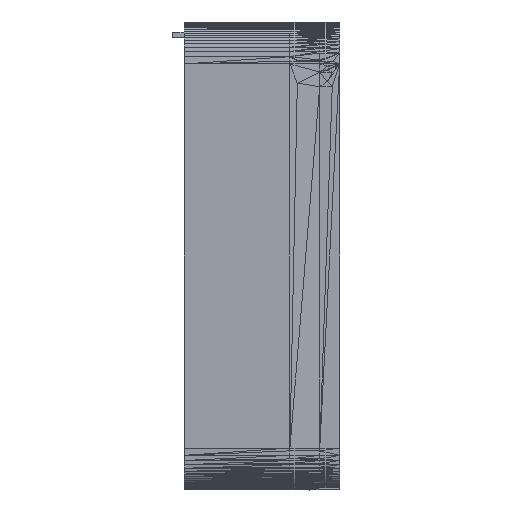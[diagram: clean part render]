
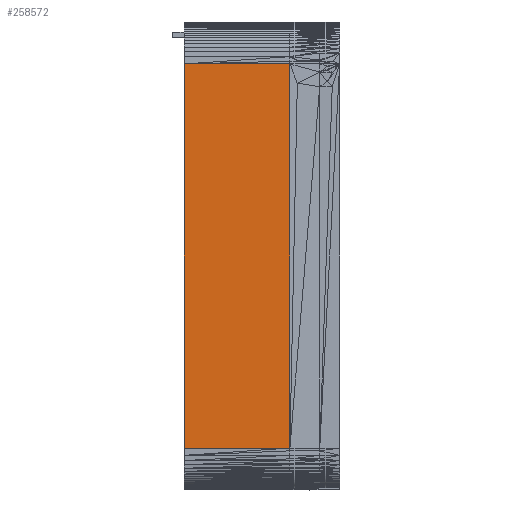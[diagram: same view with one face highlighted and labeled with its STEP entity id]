
A CAD part, left-side view. The second image highlights one B-rep face of the part: STEP entity #258572.
In plain terms, the highlighted planar face has unit normal (-1, 0, 0).
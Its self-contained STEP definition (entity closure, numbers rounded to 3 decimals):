
#53218 = PLANE('',#53219);
#53219 = AXIS2_PLACEMENT_3D('',#53220,#53221,#53222);
#53220 = CARTESIAN_POINT('',(33.536,57.2,
    53.216));
#53221 = DIRECTION('',(0.,1.,0.));
#53222 = DIRECTION('',(0.,-0.,1.));
#180512 = VERTEX_POINT('',#180513);
#180513 = CARTESIAN_POINT('',(-35.586,57.2,
    -29.377));
#180527 = PLANE('',#180528);
#180528 = AXIS2_PLACEMENT_3D('',#180529,#180530,#180531);
#180529 = CARTESIAN_POINT('',(-35.575,46.952,
    -29.754));
#180530 = DIRECTION('',(-1.,-0.,-0.029));
#180531 = DIRECTION('',(0.029,0.,-1.));
#180539 = EDGE_CURVE('',#180540,#180512,#180542,.T.);
#180540 = VERTEX_POINT('',#180541);
#180541 = CARTESIAN_POINT('',(-35.586,57.2,
    47.777));
#180542 = SURFACE_CURVE('',#180543,(#180547,#180554),.PCURVE_S1.);
#180543 = LINE('',#180544,#180545);
#180544 = CARTESIAN_POINT('',(-35.586,57.2,
    47.777));
#180545 = VECTOR('',#180546,1.);
#180546 = DIRECTION('',(0.,0.,-1.));
#180547 = PCURVE('',#53218,#180548);
#180548 = DEFINITIONAL_REPRESENTATION('',(#180549),#180553);
#180549 = LINE('',#180550,#180551);
#180550 = CARTESIAN_POINT('',(-5.439,-69.122));
#180551 = VECTOR('',#180552,1.);
#180552 = DIRECTION('',(-1.,0.));
#180553 = ( GEOMETRIC_REPRESENTATION_CONTEXT(2) 
PARAMETRIC_REPRESENTATION_CONTEXT() REPRESENTATION_CONTEXT('2D SPACE',''
  ) );
#180554 = PCURVE('',#180555,#180560);
#180555 = PLANE('',#180556);
#180556 = AXIS2_PLACEMENT_3D('',#180557,#180558,#180559);
#180557 = CARTESIAN_POINT('',(-35.586,42.015,
    4.615));
#180558 = DIRECTION('',(-1.,-0.,-0.));
#180559 = DIRECTION('',(0.,0.,-1.));
#180560 = DEFINITIONAL_REPRESENTATION('',(#180561),#180565);
#180561 = LINE('',#180562,#180563);
#180562 = CARTESIAN_POINT('',(-43.162,-15.185));
#180563 = VECTOR('',#180564,1.);
#180564 = DIRECTION('',(1.,0.));
#180565 = ( GEOMETRIC_REPRESENTATION_CONTEXT(2) 
PARAMETRIC_REPRESENTATION_CONTEXT() REPRESENTATION_CONTEXT('2D SPACE',''
  ) );
#241989 = VERTEX_POINT('',#241990);
#241990 = CARTESIAN_POINT('',(-35.586,36.,-29.377));
#242004 = PLANE('',#242005);
#242005 = AXIS2_PLACEMENT_3D('',#242006,#242007,#242008);
#242006 = CARTESIAN_POINT('',(-35.213,35.624,
    9.328));
#242007 = DIRECTION('',(-0.71,-0.704,-0.));
#242008 = DIRECTION('',(0.704,-0.71,0.));
#247353 = VERTEX_POINT('',#247354);
#247354 = CARTESIAN_POINT('',(-35.586,36.,47.777));
#247368 = PLANE('',#247369);
#247369 = AXIS2_PLACEMENT_3D('',#247370,#247371,#247372);
#247370 = CARTESIAN_POINT('',(-35.583,46.463,
    47.918));
#247371 = DIRECTION('',(-1.,-0.,0.02));
#247372 = DIRECTION('',(-0.02,0.,-1.));
#248618 = EDGE_CURVE('',#247353,#241989,#248619,.T.);
#248619 = SURFACE_CURVE('',#248620,(#248624,#248631),.PCURVE_S1.);
#248620 = LINE('',#248621,#248622);
#248621 = CARTESIAN_POINT('',(-35.586,36.,47.777));
#248622 = VECTOR('',#248623,1.);
#248623 = DIRECTION('',(0.,0.,-1.));
#248624 = PCURVE('',#242004,#248625);
#248625 = DEFINITIONAL_REPRESENTATION('',(#248626),#248630);
#248626 = LINE('',#248627,#248628);
#248627 = CARTESIAN_POINT('',(-0.53,38.449));
#248628 = VECTOR('',#248629,1.);
#248629 = DIRECTION('',(0.,-1.));
#248630 = ( GEOMETRIC_REPRESENTATION_CONTEXT(2) 
PARAMETRIC_REPRESENTATION_CONTEXT() REPRESENTATION_CONTEXT('2D SPACE',''
  ) );
#248631 = PCURVE('',#180555,#248632);
#248632 = DEFINITIONAL_REPRESENTATION('',(#248633),#248637);
#248633 = LINE('',#248634,#248635);
#248634 = CARTESIAN_POINT('',(-43.162,6.015));
#248635 = VECTOR('',#248636,1.);
#248636 = DIRECTION('',(1.,0.));
#248637 = ( GEOMETRIC_REPRESENTATION_CONTEXT(2) 
PARAMETRIC_REPRESENTATION_CONTEXT() REPRESENTATION_CONTEXT('2D SPACE',''
  ) );
#258550 = EDGE_CURVE('',#241989,#180512,#258551,.T.);
#258551 = SURFACE_CURVE('',#258552,(#258556,#258563),.PCURVE_S1.);
#258552 = LINE('',#258553,#258554);
#258553 = CARTESIAN_POINT('',(-35.586,36.,-29.377));
#258554 = VECTOR('',#258555,1.);
#258555 = DIRECTION('',(0.,1.,0.));
#258556 = PCURVE('',#180527,#258557);
#258557 = DEFINITIONAL_REPRESENTATION('',(#258558),#258562);
#258558 = LINE('',#258559,#258560);
#258559 = CARTESIAN_POINT('',(-0.377,10.952));
#258560 = VECTOR('',#258561,1.);
#258561 = DIRECTION('',(0.,-1.));
#258562 = ( GEOMETRIC_REPRESENTATION_CONTEXT(2) 
PARAMETRIC_REPRESENTATION_CONTEXT() REPRESENTATION_CONTEXT('2D SPACE',''
  ) );
#258563 = PCURVE('',#180555,#258564);
#258564 = DEFINITIONAL_REPRESENTATION('',(#258565),#258569);
#258565 = LINE('',#258566,#258567);
#258566 = CARTESIAN_POINT('',(33.992,6.015));
#258567 = VECTOR('',#258568,1.);
#258568 = DIRECTION('',(0.,-1.));
#258569 = ( GEOMETRIC_REPRESENTATION_CONTEXT(2) 
PARAMETRIC_REPRESENTATION_CONTEXT() REPRESENTATION_CONTEXT('2D SPACE',''
  ) );
#258572 = ADVANCED_FACE('',(#258573),#180555,.T.);
#258573 = FACE_BOUND('',#258574,.T.);
#258574 = EDGE_LOOP('',(#258575,#258576,#258596,#258597));
#258575 = ORIENTED_EDGE('',*,*,#248618,.F.);
#258576 = ORIENTED_EDGE('',*,*,#258577,.T.);
#258577 = EDGE_CURVE('',#247353,#180540,#258578,.T.);
#258578 = SURFACE_CURVE('',#258579,(#258583,#258590),.PCURVE_S1.);
#258579 = LINE('',#258580,#258581);
#258580 = CARTESIAN_POINT('',(-35.586,36.,47.777));
#258581 = VECTOR('',#258582,1.);
#258582 = DIRECTION('',(0.,1.,0.));
#258583 = PCURVE('',#180555,#258584);
#258584 = DEFINITIONAL_REPRESENTATION('',(#258585),#258589);
#258585 = LINE('',#258586,#258587);
#258586 = CARTESIAN_POINT('',(-43.162,6.015));
#258587 = VECTOR('',#258588,1.);
#258588 = DIRECTION('',(0.,-1.));
#258589 = ( GEOMETRIC_REPRESENTATION_CONTEXT(2) 
PARAMETRIC_REPRESENTATION_CONTEXT() REPRESENTATION_CONTEXT('2D SPACE',''
  ) );
#258590 = PCURVE('',#247368,#258591);
#258591 = DEFINITIONAL_REPRESENTATION('',(#258592),#258595);
#258592 = B_SPLINE_CURVE_WITH_KNOTS('',1,(#258593,#258594),
  .UNSPECIFIED.,.F.,.F.,(2,2),(0.,21.2),
  .PIECEWISE_BEZIER_KNOTS.);
#258593 = CARTESIAN_POINT('',(0.141,10.463));
#258594 = CARTESIAN_POINT('',(0.141,-10.737));
#258595 = ( GEOMETRIC_REPRESENTATION_CONTEXT(2) 
PARAMETRIC_REPRESENTATION_CONTEXT() REPRESENTATION_CONTEXT('2D SPACE',''
  ) );
#258596 = ORIENTED_EDGE('',*,*,#180539,.T.);
#258597 = ORIENTED_EDGE('',*,*,#258550,.F.);
